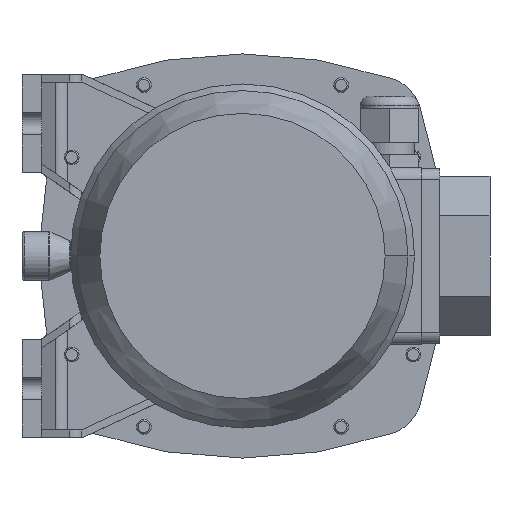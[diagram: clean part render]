
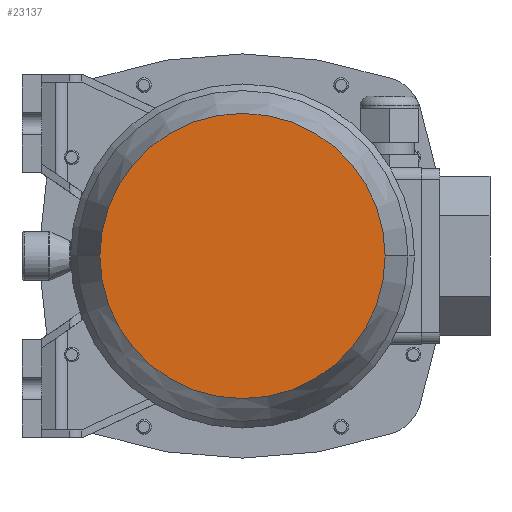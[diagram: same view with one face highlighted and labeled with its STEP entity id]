
A CAD part, front view. The second image highlights one B-rep face of the part: STEP entity #23137.
In plain terms, the highlighted planar face has unit normal (0, -1, 0) as drawn and (1, 0, 0) by its records, which use the part's own axes.
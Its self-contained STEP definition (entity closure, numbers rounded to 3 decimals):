
#16474=CARTESIAN_POINT('',(193.,0.,0.));
#16475=DIRECTION('',(-1.,0.,0.));
#16476=DIRECTION('',(0.,1.,0.));
#16477=AXIS2_PLACEMENT_3D('',#16474,#16475,#16476);
#16482=CARTESIAN_POINT('',(193.,0.,0.));
#16483=DIRECTION('',(1.,0.,0.));
#16484=DIRECTION('',(0.,1.,0.));
#16485=AXIS2_PLACEMENT_3D('',#16482,#16483,#16484);
#18425=CARTESIAN_POINT('',(193.,58.207,0.));
#18427=VERTEX_POINT('',#18425);
#18435=CARTESIAN_POINT('',(193.,-58.207,0.));
#18437=VERTEX_POINT('',#18435);
#23128=CARTESIAN_POINT('',(193.,0.,0.));
#23129=DIRECTION('',(1.,0.,0.));
#23130=DIRECTION('',(0.,-1.,0.));
#23131=AXIS2_PLACEMENT_3D('',#23128,#23129,#23130);
#23132=PLANE('',#23131);
#23133=ORIENTED_EDGE('',*,*,#23110,.T.);
#23134=ORIENTED_EDGE('',*,*,#23121,.F.);
#23135=EDGE_LOOP('',(#23133,#23134));
#23136=FACE_OUTER_BOUND('',#23135,.F.);
#16478=CIRCLE('',#16477,58.207);
#16486=CIRCLE('',#16485,58.207);
#23110=EDGE_CURVE('',#18427,#18437,#16478,.T.);
#23121=EDGE_CURVE('',#18427,#18437,#16486,.T.);
#23137=ADVANCED_FACE('',(#23136),#23132,.T.);
